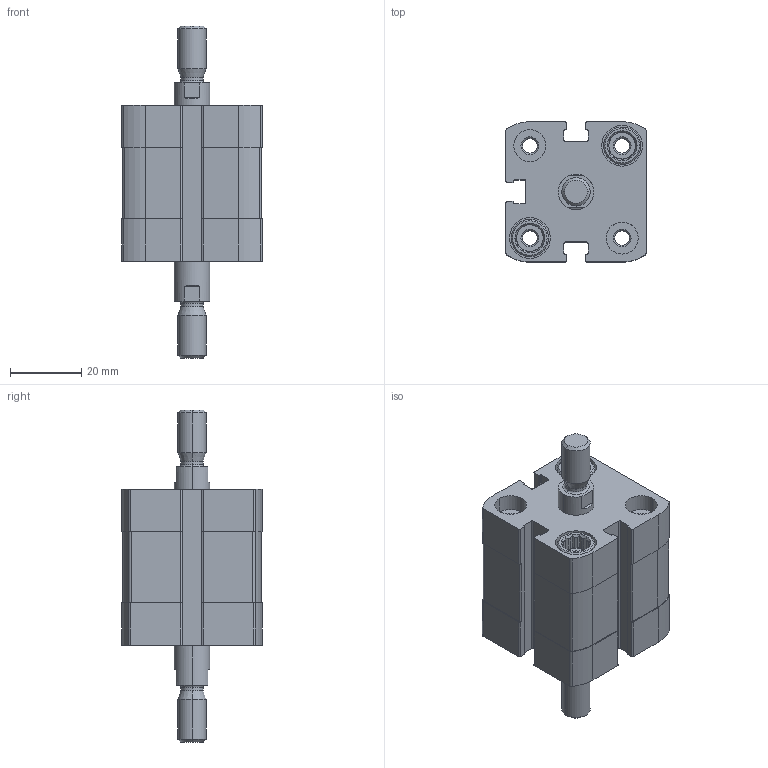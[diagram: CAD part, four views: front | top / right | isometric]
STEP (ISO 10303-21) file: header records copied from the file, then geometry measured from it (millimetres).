
FILE_DESCRIPTION (( 'STEP AP203' ), '1' );
FILE_NAME ('CCN25-5-P.STEP', '2020-06-22T18:41:49', ( '' ), ( '' ), 'SwSTEP 2.0', 'SolidWorks 2019', '' );
FILE_SCHEMA (( 'CONFIG_CONTROL_DESIGN' ));
Length unit declared in the file: millimetre
Products named in the file (1): CCN25-5-P
Bounding box: 39.5 x 39.5 x 93.5 mm (x, y, z)
Volume: 58268.7 mm3; surface area: 22695.6 mm2
Topology: 2 solids, 2 shells, 428 faces, 1122 edges, 730 vertices
Faces by surface type: plane 236, cylinder 140, cone 44, torus 8
Entity records: 13443 total; most frequent: CARTESIAN_POINT 2581, DIRECTION 2318, ORIENTED_EDGE 2244, EDGE_CURVE 1122, AXIS2_PLACEMENT_3D 867, VERTEX_POINT 730, VECTOR 584, LINE 584
